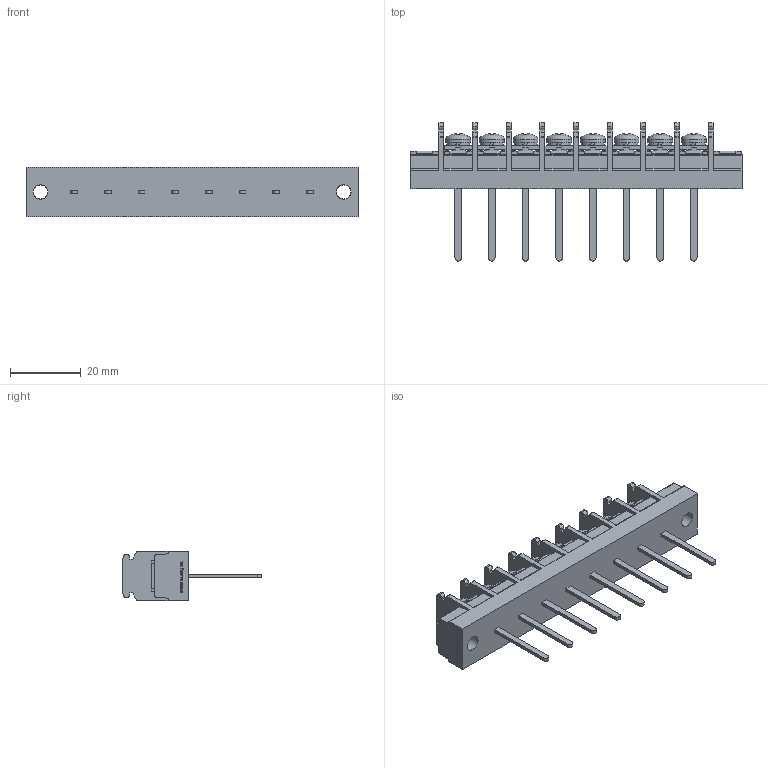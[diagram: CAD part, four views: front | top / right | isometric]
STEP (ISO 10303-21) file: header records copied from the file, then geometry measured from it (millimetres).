
FILE_DESCRIPTION(/* description */ ('Alibre Inc.'),/* implementation_level */ '2;1');
FILE_NAME(/* name */ 'export-35F6ADC3-754E-4757-B0D5-2FDDDDD701E9',/* time_stamp */ '2021-02-13T17:34:10+09:00',/* author */ (''),/* organization */ (''),/* preprocessor_version */ 'ST-DEVELOPER v17',/* originating_system */ 'Alibre',/* authorisation */ '');
FILE_SCHEMA (('CONFIG_CONTROL_DESIGN'));
Length unit declared in the file: millimetre
Bounding box: 93.7 x 39 x 14 mm (x, y, z)
Volume: 15340 mm3; surface area: 10844 mm2
Topology: 1 solids, 25 shells, 1382 faces, 3870 edges, 2546 vertices
Faces by surface type: plane 1030, cylinder 184, bspline 104, cone 40, torus 16, sphere 8
Full cylindrical faces by diameter (mm): 4 x18, 4.2 x2, 7 x8
Entity records: 42255 total; most frequent: CARTESIAN_POINT 8710, ORIENTED_EDGE 7600, DIRECTION 5486, EDGE_CURVE 3800, VECTOR 2764, LINE 2764, VERTEX_POINT 2528, AXIS2_PLACEMENT_3D 1850
